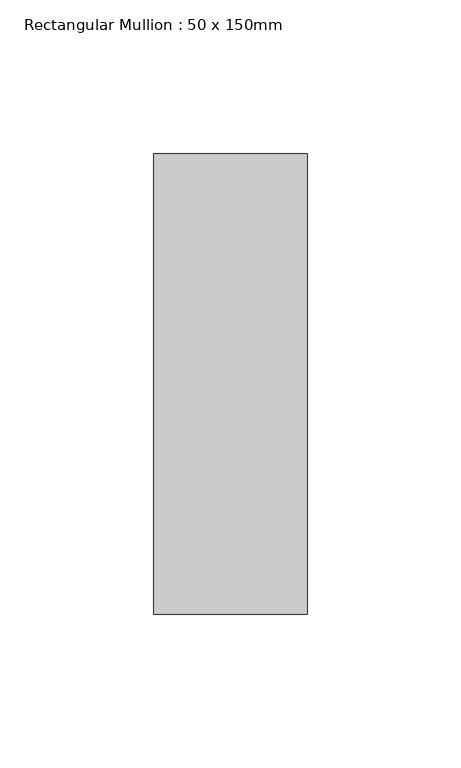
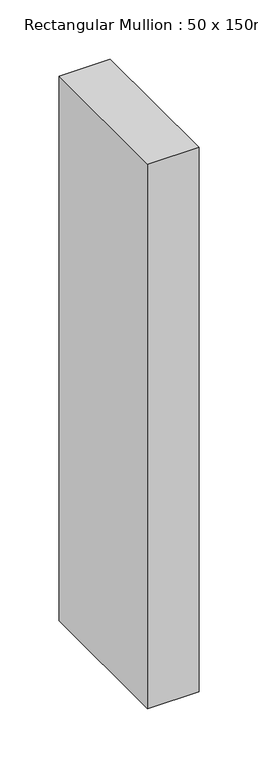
"""IFC4 building model written with IfcOpenShell, lengths in millimetres: member geometry, Rectangular Mullion : 50 x 150mm."""

from ifc_helpers import new_model, si_unit, frame, origin, place, context, project, spatial, polyline, outline, extrude, source, transform, mapped, element, save


def rectangular_mullion_50_x_150mm_73a4a083(model_context):
    return source(origin(), model_context, "Body", "SweptSolid", [
        extrude(outline(polyline([(0.0, 75.0), (0.0, -75.0), (-50.0, -75.0), (-50.0, 75.0), (0.0, 75.0)])), frame((0.0, 0.0, -562.270441), z_axis=(0.0, 0.0, 1.0), x_axis=(1.0, 0.0, 0.0)), (0.0, 0.0, 1.0), 562.270441),
    ])


if __name__ == "__main__":
    model = new_model("IFC4")
    model_context = context("Model", 3, world=origin())
    ifc_project = project(units=[si_unit("LENGTHUNIT", "METRE", prefix="MILLI")], contexts=[model_context])
    site = spatial("IfcSite", under=ifc_project)
    building = spatial("IfcBuilding", under=site)
    placement = place(None, origin())
    rectangular_mullion_50_x_150mm_shape = rectangular_mullion_50_x_150mm_73a4a083(model_context)
    element("IfcMember", 1, ObjectType="Rectangular Mullion : 50 x 150mm", at=placement, inside=building, context=model_context, shape_type="MappedRepresentation", body=[
        mapped(rectangular_mullion_50_x_150mm_shape, transform((0.0, 0.0, 0.0), x_axis=(1.0, 0.0, 0.0), y_axis=(0.0, 1.0, 0.0), z_axis=(0.0, 0.0, 1.0))),
    ])
    save(model, "model.ifc")
